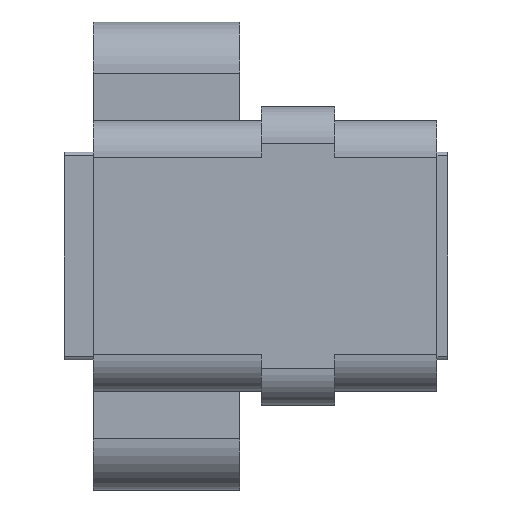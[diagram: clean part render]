
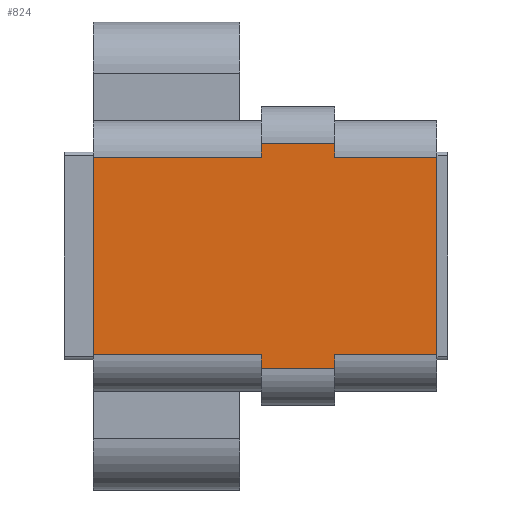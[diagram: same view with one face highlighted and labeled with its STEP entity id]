
A CAD part, front view. The second image highlights one B-rep face of the part: STEP entity #824.
In plain terms, the highlighted planar face has unit normal (0, -1, 0).
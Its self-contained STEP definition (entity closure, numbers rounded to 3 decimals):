
#42 = DIRECTION ( 'NONE',  ( 0., 0., -1. ) ) ;
#119 = CARTESIAN_POINT ( 'NONE',  ( 23.5, -11.25, 6.75 ) ) ;
#120 = DIRECTION ( 'NONE',  ( 0., 0., -1. ) ) ;
#202 = DIRECTION ( 'NONE',  ( 0., 0., -1. ) ) ;
#214 = CARTESIAN_POINT ( 'NONE',  ( 11.5, -11.25, -7.7 ) ) ;
#240 = DIRECTION ( 'NONE',  ( 1., 0., 0. ) ) ;
#248 = CARTESIAN_POINT ( 'NONE',  ( 16.5, -11.25, -7.7 ) ) ;
#254 = DIRECTION ( 'NONE',  ( 0., 0., -1. ) ) ;
#267 = CARTESIAN_POINT ( 'NONE',  ( 11.5, -11.25, 7.7 ) ) ;
#284 = CARTESIAN_POINT ( 'NONE',  ( 11.5, -11.25, -7.7 ) ) ;
#318 = EDGE_CURVE ( 'NONE', #1861, #1860, #2929, .T. ) ;
#394 = AXIS2_PLACEMENT_3D ( 'NONE', #1274, #1275, #1276 ) ;
#550 = EDGE_CURVE ( 'NONE', #1865, #1863, #3003, .T. ) ;
#571 = EDGE_CURVE ( 'NONE', #2008, #1904, #3063, .T. ) ;
#572 = EDGE_CURVE ( 'NONE', #1904, #1909, #3078, .T. ) ;
#574 = EDGE_CURVE ( 'NONE', #1967, #1909, #3069, .T. ) ;
#577 = EDGE_CURVE ( 'NONE', #1967, #2013, #3062, .T. ) ;
#580 = EDGE_CURVE ( 'NONE', #2013, #1958, #3068, .T. ) ;
#583 = EDGE_CURVE ( 'NONE', #1863, #1958, #3042, .T. ) ;
#584 = EDGE_CURVE ( 'NONE', #1919, #1860, #3051, .T. ) ;
#585 = EDGE_CURVE ( 'NONE', #1918, #1919, #3046, .T. ) ;
#587 = EDGE_CURVE ( 'NONE', #1918, #2008, #3002, .T. ) ;
#643 = EDGE_CURVE ( 'NONE', #1861, #1865, #2059, .T. ) ;
#824 = ADVANCED_FACE ( 'NONE', ( #1638 ), #1273, .F. ) ;
#1273 = PLANE ( 'NONE',  #394 ) ;
#1274 = CARTESIAN_POINT ( 'NONE',  ( 23.5, -11.25, 6.75 ) ) ;
#1275 = DIRECTION ( 'NONE',  ( 0., 1., 0. ) ) ;
#1276 = DIRECTION ( 'NONE',  ( 0., 0., 1. ) ) ;
#1453 = CARTESIAN_POINT ( 'NONE',  ( 16.5, -11.25, 6.75 ) ) ;
#1454 = CARTESIAN_POINT ( 'NONE',  ( 23.5, -11.25, 6.75 ) ) ;
#1456 = CARTESIAN_POINT ( 'NONE',  ( 16.5, -11.25, -6.75 ) ) ;
#1458 = CARTESIAN_POINT ( 'NONE',  ( 23.5, -11.25, -6.75 ) ) ;
#1497 = CARTESIAN_POINT ( 'NONE',  ( 0., -11.25, 6.75 ) ) ;
#1502 = CARTESIAN_POINT ( 'NONE',  ( 0., -11.25, -6.75 ) ) ;
#1511 = CARTESIAN_POINT ( 'NONE',  ( 11.5, -11.25, 7.7 ) ) ;
#1512 = CARTESIAN_POINT ( 'NONE',  ( 16.5, -11.25, 7.7 ) ) ;
#1551 = CARTESIAN_POINT ( 'NONE',  ( 16.5, -11.25, -7.7 ) ) ;
#1560 = CARTESIAN_POINT ( 'NONE',  ( 11.5, -11.25, -6.75 ) ) ;
#1584 = CARTESIAN_POINT ( 'NONE',  ( 11.5, -11.25, 6.75 ) ) ;
#1638 = FACE_OUTER_BOUND ( 'NONE', #3039, .T. ) ;
#1660 = CARTESIAN_POINT ( 'NONE',  ( 16.5, -11.25, -7.7 ) ) ;
#1665 = DIRECTION ( 'NONE',  ( 1., 0., 0. ) ) ;
#1666 = CARTESIAN_POINT ( 'NONE',  ( 11.5, -11.25, -7.7 ) ) ;
#1671 = DIRECTION ( 'NONE',  ( 0., 0., -1. ) ) ;
#1672 = CARTESIAN_POINT ( 'NONE',  ( 11.5, -11.25, -7.7 ) ) ;
#1678 = DIRECTION ( 'NONE',  ( -1., 0., 0. ) ) ;
#1679 = CARTESIAN_POINT ( 'NONE',  ( 23.5, -11.25, -6.75 ) ) ;
#1683 = DIRECTION ( 'NONE',  ( 0., 0., -1. ) ) ;
#1684 = CARTESIAN_POINT ( 'NONE',  ( 0., -11.25, 6.75 ) ) ;
#1685 = DIRECTION ( 'NONE',  ( -1., 0., 0. ) ) ;
#1686 = CARTESIAN_POINT ( 'NONE',  ( 23.5, -11.25, 6.75 ) ) ;
#1735 = DIRECTION ( 'NONE',  ( -1., 0., 0. ) ) ;
#1736 = CARTESIAN_POINT ( 'NONE',  ( 23.5, -11.25, -6.75 ) ) ;
#1818 = DIRECTION ( 'NONE',  ( -1., 0., 0. ) ) ;
#1819 = CARTESIAN_POINT ( 'NONE',  ( 23.5, -11.25, 6.75 ) ) ;
#1860 = VERTEX_POINT ( 'NONE', #1453 ) ;
#1861 = VERTEX_POINT ( 'NONE', #1454 ) ;
#1863 = VERTEX_POINT ( 'NONE', #1456 ) ;
#1865 = VERTEX_POINT ( 'NONE', #1458 ) ;
#1904 = VERTEX_POINT ( 'NONE', #1497 ) ;
#1909 = VERTEX_POINT ( 'NONE', #1502 ) ;
#1918 = VERTEX_POINT ( 'NONE', #1511 ) ;
#1919 = VERTEX_POINT ( 'NONE', #1512 ) ;
#1958 = VERTEX_POINT ( 'NONE', #1551 ) ;
#1967 = VERTEX_POINT ( 'NONE', #1560 ) ;
#2008 = VERTEX_POINT ( 'NONE', #1584 ) ;
#2013 = VERTEX_POINT ( 'NONE', #284 ) ;
#2059 = LINE ( 'NONE', #119, #2090 ) ;
#2090 = VECTOR ( 'NONE', #120, 1000. ) ;
#2691 = ORIENTED_EDGE ( 'NONE', *, *, #585, .F. ) ;
#2695 = ORIENTED_EDGE ( 'NONE', *, *, #572, .T. ) ;
#2696 = ORIENTED_EDGE ( 'NONE', *, *, #587, .T. ) ;
#2699 = ORIENTED_EDGE ( 'NONE', *, *, #318, .T. ) ;
#2705 = ORIENTED_EDGE ( 'NONE', *, *, #571, .T. ) ;
#2706 = ORIENTED_EDGE ( 'NONE', *, *, #584, .F. ) ;
#2709 = ORIENTED_EDGE ( 'NONE', *, *, #574, .F. ) ;
#2719 = ORIENTED_EDGE ( 'NONE', *, *, #583, .F. ) ;
#2720 = ORIENTED_EDGE ( 'NONE', *, *, #550, .F. ) ;
#2721 = ORIENTED_EDGE ( 'NONE', *, *, #577, .T. ) ;
#2724 = ORIENTED_EDGE ( 'NONE', *, *, #580, .T. ) ;
#2726 = ORIENTED_EDGE ( 'NONE', *, *, #643, .F. ) ;
#2923 = VECTOR ( 'NONE', #1818, 1000. ) ;
#2929 = LINE ( 'NONE', #1819, #2923 ) ;
#3002 = LINE ( 'NONE', #214, #3017 ) ;
#3003 = LINE ( 'NONE', #1736, #3015 ) ;
#3015 = VECTOR ( 'NONE', #1735, 1000. ) ;
#3017 = VECTOR ( 'NONE', #42, 1000. ) ;
#3019 = VECTOR ( 'NONE', #1665, 1000. ) ;
#3023 = VECTOR ( 'NONE', #254, 1000. ) ;
#3039 = EDGE_LOOP ( 'NONE', ( #2709, #2721, #2724, #2719, #2720, #2726, #2699, #2706, #2691, #2696, #2705, #2695 ) ) ;
#3042 = LINE ( 'NONE', #1660, #3053 ) ;
#3046 = LINE ( 'NONE', #267, #3088 ) ;
#3051 = LINE ( 'NONE', #248, #3023 ) ;
#3053 = VECTOR ( 'NONE', #202, 1000. ) ;
#3062 = LINE ( 'NONE', #1672, #3082 ) ;
#3063 = LINE ( 'NONE', #1686, #3074 ) ;
#3065 = VECTOR ( 'NONE', #1678, 1000. ) ;
#3068 = LINE ( 'NONE', #1666, #3019 ) ;
#3069 = LINE ( 'NONE', #1679, #3065 ) ;
#3071 = VECTOR ( 'NONE', #1683, 1000. ) ;
#3074 = VECTOR ( 'NONE', #1685, 1000. ) ;
#3078 = LINE ( 'NONE', #1684, #3071 ) ;
#3082 = VECTOR ( 'NONE', #1671, 1000. ) ;
#3088 = VECTOR ( 'NONE', #240, 1000. ) ;
